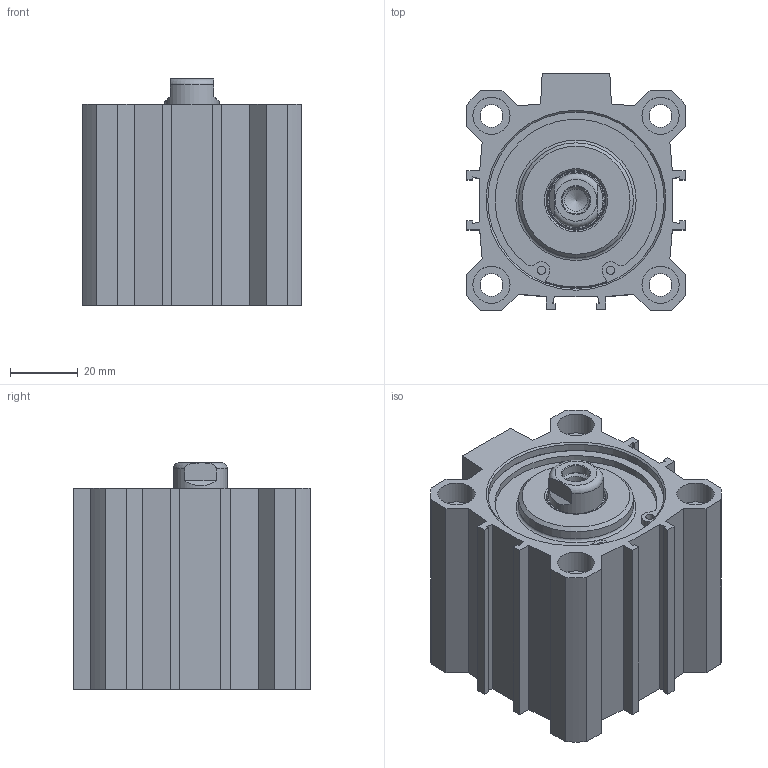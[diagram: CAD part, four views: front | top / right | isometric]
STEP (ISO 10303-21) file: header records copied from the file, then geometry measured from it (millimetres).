
FILE_DESCRIPTION(/* description */ ('Unknown'),/* implementation_level */ '2;1');
FILE_NAME(/* name */ 'FEN 50_20',/* time_stamp */ '2026-06-09T11:05:27+02:00',/* author */ ('Unknown'),/* organization */ ('Unknown'),/* preprocessor_version */ 'ST-DEVELOPER v18.102',/* originating_system */ 'Solid Edge',/* authorisation */ 'Unknown');
FILE_SCHEMA (('AUTOMOTIVE_DESIGN {1 0 10303 214 3 1 1}'));
Length unit declared in the file: millimetre
Products named in the file (5): FEN 50_20; Kit_1; Profilrohr; Kit_2; Kolbenstange
Assembly tree (4 placements, depth 2):
  FEN 50_20
    Kit_1
    Profilrohr
    Kit_2
    Kolbenstange
Bounding box: 65 x 70 x 67 mm (x, y, z)
Volume: 163225 mm3; surface area: 62186.8 mm2
Topology: 4 solids, 4 shells, 204 faces, 481 edges, 307 vertices
Faces by surface type: plane 106, cylinder 58, cone 30, torus 10
Full cylindrical faces by diameter (mm): 2.5 x4, 2.75 x2, 6.647 x2, 6.8 x4, 8.25 x1, 8.566 x4, 11 x8, 16 x1, 16.54 x1, 17.7 x1, 20.32 x1, 20.5 x1, 34 x1, 37 x1, 50 x2, 51.8 x4, 52.2 x2, 55.2 x2
Entity records: 6966 total; most frequent: CARTESIAN_POINT 1012, DIRECTION 948, ORIENTED_EDGE 772, EDGE_CURVE 386, AXIS2_PLACEMENT_3D 363, FACE_BOUND 323, EDGE_LOOP 322, VERTEX_POINT 293
